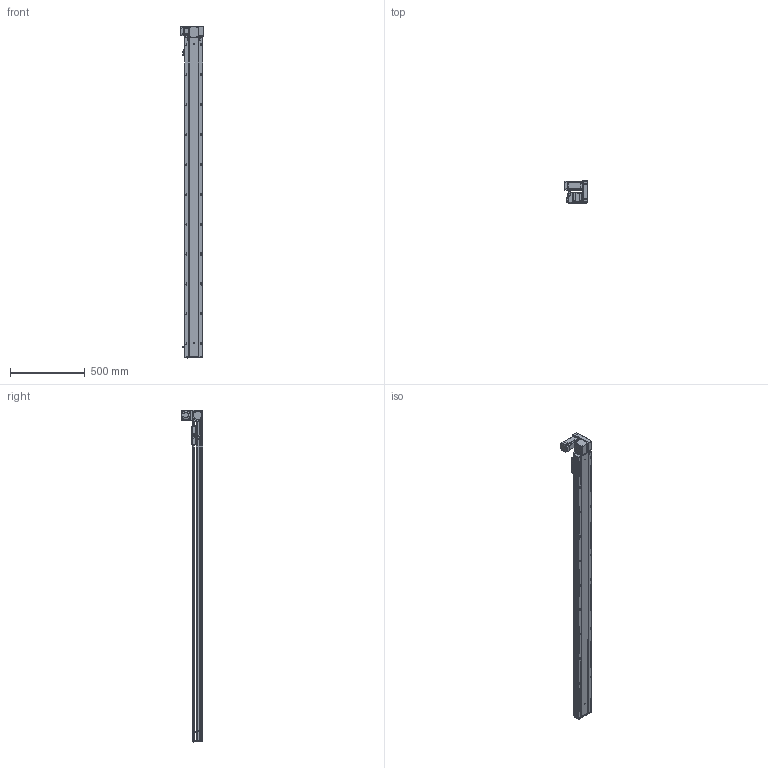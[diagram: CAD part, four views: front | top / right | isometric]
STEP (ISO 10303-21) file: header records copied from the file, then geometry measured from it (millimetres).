
FILE_DESCRIPTION (( 'STEP AP203' ), '1' );
FILE_NAME ('RY120-T-300-UR.SLDASM_1900.step', '2021-03-01T05:58:13', ( '盈信电脑' ), ( '东莞市道滘镇水果街19号' ), 'SwSTEP 2.0', 'SolidWorks 2012', '' );
FILE_SCHEMA (( 'CONFIG_CONTROL_DESIGN' ));
Products named in the file (17): RY120-T主同步轮轴承压盖; RY120-T-300-UR.SLDASM_1900; RY120-T蹟翐M4; RY120-T萇儂欶; RY120-T翋肮祭謫裔啣; 15; 滅袉蝶18-10; RY120-T萇儂假蚾啣; RY120-T翋肮祭盓傅釱; RY120-T肮祭湍揤踡輸2; RY120-T肮祭湍揤踡輸1; RY120外置感应片(140共用）; 覜茼ん672; RY120肮祭湍臏賑輸; RY120-T-300-UR倰第奻裔啣_1900; RY120綴裔啣; RY120-T-300-UR倰第菁釱_1900
Assembly tree (22 placements, depth 2):
  RY120-T-300-UR.SLDASM_1900
    RY120-T-300-UR倰第菁釱_1900
    RY120-T-300-UR倰第奻裔啣_1900
    RY120肮祭湍臏賑輸
    RY120綴裔啣
    覜茼ん672  x3
    RY120外置感应片(140共用）
    RY120-T肮祭湍揤踡輸1
    RY120-T肮祭湍揤踡輸2
    RY120-T翋肮祭盓傅釱
    RY120-T萇儂假蚾啣
    滅袉蝶18-10  x2
    RY120-T翋肮祭謫裔啣
    15
    RY120-T蹟翐M4  x4
    RY120-T萇儂欶
    RY120-T主同步轮轴承压盖
Bounding box: 155.5 x 146 x 2221 mm (x, y, z)
Volume: 5586801.1 mm3; surface area: 2131775.6 mm2
Topology: 23 solids, 23 shells, 3108 faces, 8508 edges, 5422 vertices
Faces by surface type: plane 1452, cylinder 1246, cone 321, bspline 89
Entity records: 100057 total; most frequent: CARTESIAN_POINT 26196, ORIENTED_EDGE 15312, DIRECTION 14430, EDGE_CURVE 7656, VERTEX_POINT 5009, AXIS2_PLACEMENT_3D 4903, VECTOR 4624, LINE 4624
